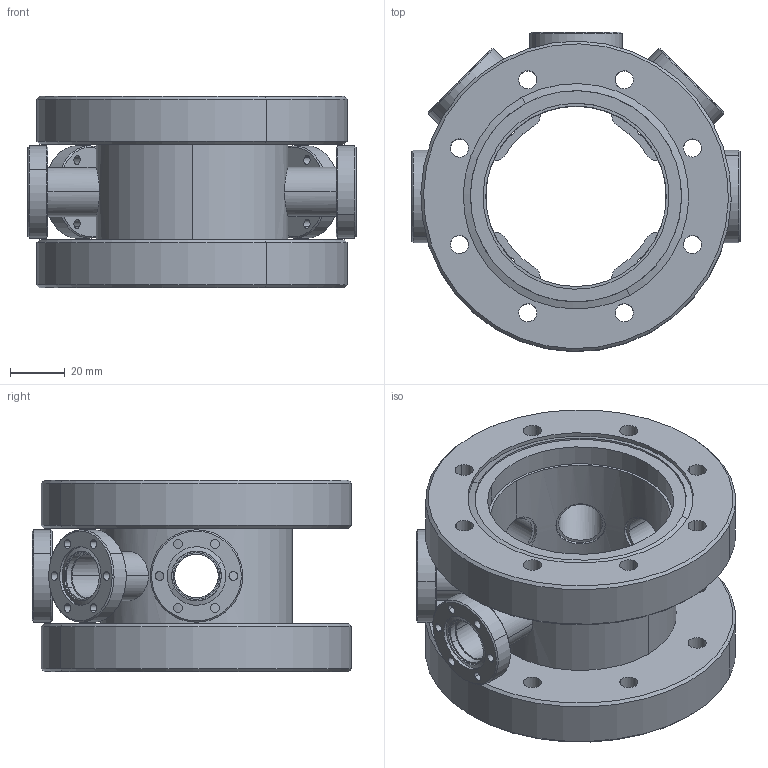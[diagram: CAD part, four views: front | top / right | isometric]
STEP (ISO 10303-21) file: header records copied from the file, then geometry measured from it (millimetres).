
FILE_DESCRIPTION(('CATIA V5 STEP Exchange'),'2;1');
FILE_NAME('W:\KONSTRUKTION\PRODUCTS\MZ\MZF\MZFCHCF63TCF63T5XCF16T\MZFCHCF63TCF63T5XCF16T.stp','2018-06-29T08:53:38+00:00',('none'),('none'),'CATIA Version 5 Release 20 SP 7 (IN-10)','CATIA V5 STEP AP214','none');
FILE_SCHEMA(('AUTOMOTIVE_DESIGN { 1 0 10303 214 1 1 1 1 }'));
Length unit declared in the file: millimetre
Products named in the file (8): MZFCHCF63TCF63T5XCF16T; MZFCHCF63TCF63T5XCF16T-p1; MZFCHCF63TCF63T5XCF16TDN63CFS_p2; MZFCHCF63TCF63T5XCF16T-p3; MZFCHCF63TCF63T5XCF16T-p4; MZFCHCF63TCF63T5XCF16T-p5; MZFCHCF63TCF63T5XCF16T-p6; MZFCHCF63TCF63T5XCF16T-p7
Assembly tree (7 placements, depth 2):
  MZFCHCF63TCF63T5XCF16T
    MZFCHCF63TCF63T5XCF16T-p1
    MZFCHCF63TCF63T5XCF16TDN63CFS_p2
    MZFCHCF63TCF63T5XCF16T-p3
    MZFCHCF63TCF63T5XCF16T-p4
    MZFCHCF63TCF63T5XCF16T-p5
    MZFCHCF63TCF63T5XCF16T-p6
    MZFCHCF63TCF63T5XCF16T-p7
Bounding box: 120 x 116.73 x 70 mm (x, y, z)
Volume: 249681.5 mm3; surface area: 98133.6 mm2
Topology: 13 solids, 13 shells, 342 faces, 869 edges, 557 vertices
Faces by surface type: cylinder 223, cone 64, plane 55
Entity records: 10414 total; most frequent: CARTESIAN_POINT 2249, ORIENTED_EDGE 1738, DIRECTION 1279, EDGE_CURVE 869, AXIS2_PLACEMENT_3D 715, VERTEX_POINT 557, EDGE_LOOP 490, CIRCLE 484
